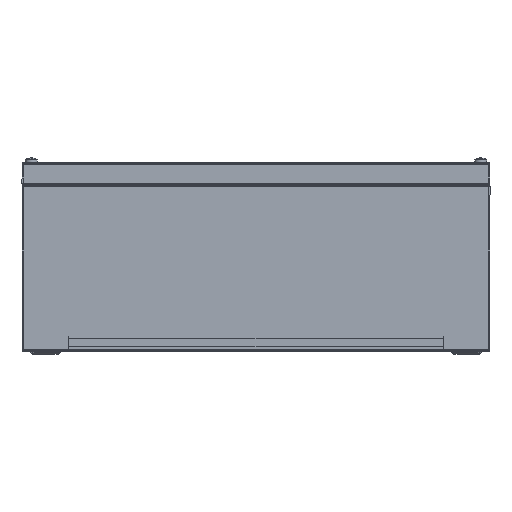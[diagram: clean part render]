
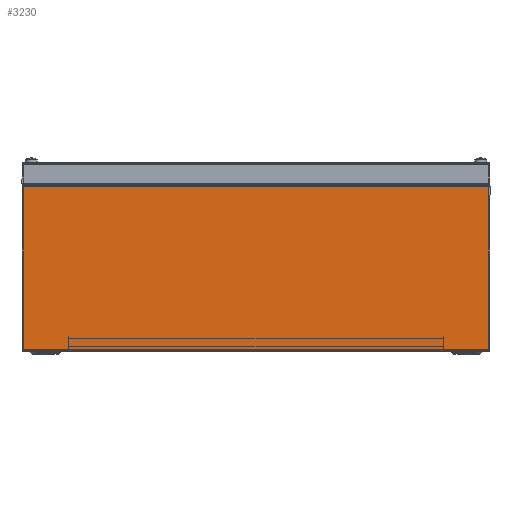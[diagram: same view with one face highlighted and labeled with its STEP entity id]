
A CAD part, front view. The second image highlights one B-rep face of the part: STEP entity #3230.
In plain terms, the highlighted planar face has unit normal (0, -1, 0).
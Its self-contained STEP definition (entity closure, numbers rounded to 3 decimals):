
#105 = CARTESIAN_POINT ( 'NONE',  ( 198.729, -250., 139.863 ) ) ;
#781 = CARTESIAN_POINT ( 'NONE',  ( -198.729, -250., 0.737 ) ) ;
#788 = CARTESIAN_POINT ( 'NONE',  ( -198.729, -250., 139.863 ) ) ;
#1198 = DIRECTION ( 'NONE',  ( -1., 0., 0. ) ) ;
#1578 = ORIENTED_EDGE ( 'NONE', *, *, #2366, .T. ) ;
#2366 = EDGE_CURVE ( 'NONE', #11551, #7416, #7596, .T. ) ;
#2438 = CARTESIAN_POINT ( 'NONE',  ( 198.729, -250., 139.863 ) ) ;
#2742 = CARTESIAN_POINT ( 'NONE',  ( 0., -250., 0. ) ) ;
#3230 = ADVANCED_FACE ( 'NONE', ( #12997 ), #11641, .F. ) ;
#3903 = VECTOR ( 'NONE', #5889, 1000. ) ;
#4177 = VECTOR ( 'NONE', #7052, 1000. ) ;
#4305 = EDGE_CURVE ( 'NONE', #9472, #13584, #10335, .T. ) ;
#5889 = DIRECTION ( 'NONE',  ( 0., 0., 1. ) ) ;
#6054 = VECTOR ( 'NONE', #1198, 1000. ) ;
#6683 = EDGE_CURVE ( 'NONE', #11551, #9472, #7475, .T. ) ;
#7052 = DIRECTION ( 'NONE',  ( 0., 0., 1. ) ) ;
#7416 = VERTEX_POINT ( 'NONE', #105 ) ;
#7475 = LINE ( 'NONE', #16565, #6054 ) ;
#7596 = LINE ( 'NONE', #14757, #4177 ) ;
#7777 = ORIENTED_EDGE ( 'NONE', *, *, #14085, .T. ) ;
#9424 = AXIS2_PLACEMENT_3D ( 'NONE', #2742, #11744, #14237 ) ;
#9472 = VERTEX_POINT ( 'NONE', #781 ) ;
#10335 = LINE ( 'NONE', #11032, #3903 ) ;
#11032 = CARTESIAN_POINT ( 'NONE',  ( -198.729, -250., 0.737 ) ) ;
#11551 = VERTEX_POINT ( 'NONE', #13664 ) ;
#11641 = PLANE ( 'NONE',  #9424 ) ;
#11744 = DIRECTION ( 'NONE',  ( 0., 1., 0. ) ) ;
#12952 = ORIENTED_EDGE ( 'NONE', *, *, #4305, .F. ) ;
#12997 = FACE_OUTER_BOUND ( 'NONE', #16465, .T. ) ;
#13540 = VECTOR ( 'NONE', #15629, 1000. ) ;
#13584 = VERTEX_POINT ( 'NONE', #788 ) ;
#13664 = CARTESIAN_POINT ( 'NONE',  ( 198.729, -250., 0.737 ) ) ;
#14085 = EDGE_CURVE ( 'NONE', #7416, #13584, #14149, .T. ) ;
#14149 = LINE ( 'NONE', #2438, #13540 ) ;
#14237 = DIRECTION ( 'NONE',  ( 0., 0., 1. ) ) ;
#14757 = CARTESIAN_POINT ( 'NONE',  ( 198.729, -250., 0.737 ) ) ;
#14821 = ORIENTED_EDGE ( 'NONE', *, *, #6683, .F. ) ;
#15629 = DIRECTION ( 'NONE',  ( -1., 0., 0. ) ) ;
#16465 = EDGE_LOOP ( 'NONE', ( #7777, #12952, #14821, #1578 ) ) ;
#16565 = CARTESIAN_POINT ( 'NONE',  ( -200., -250., 0.737 ) ) ;
